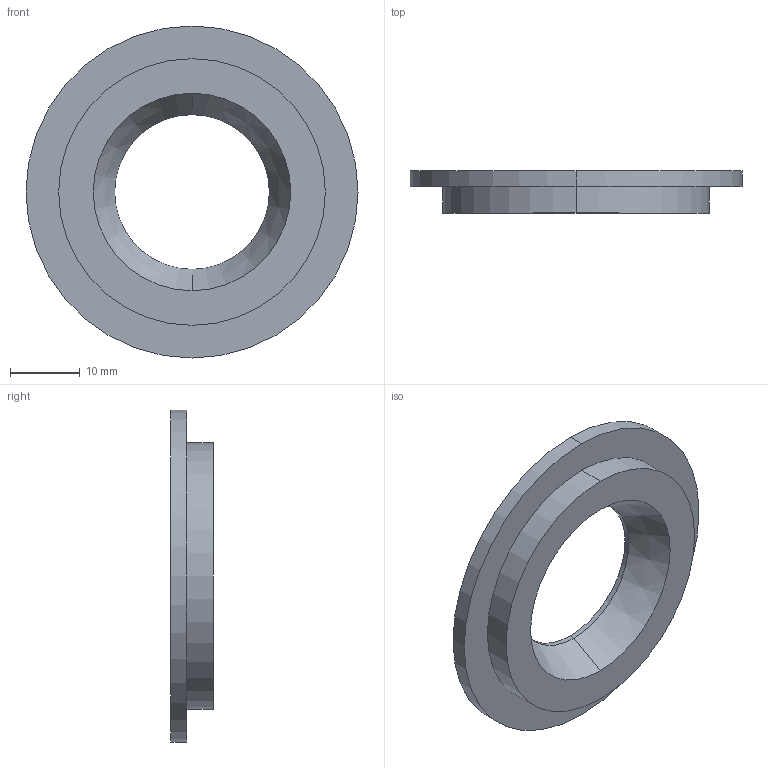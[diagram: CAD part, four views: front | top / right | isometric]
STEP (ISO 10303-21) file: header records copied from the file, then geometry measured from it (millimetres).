
FILE_DESCRIPTION (( 'STEP AP203' ), '1' );
FILE_NAME ('20-22 Washer.STEP', '2019-04-03T01:46:42', ( '' ), ( '' ), 'SwSTEP 2.0', 'SolidWorks 2017', '' );
FILE_SCHEMA (( 'CONFIG_CONTROL_DESIGN' ));
Length unit declared in the file: inch
Products named in the file (1): 20-22 Washer
Bounding box: 47.75 x 6.1 x 47.75 mm (x, y, z)
Volume: 5499.8 mm3; surface area: 3904.7 mm2
Topology: 1 solids, 1 shells, 11 faces, 22 edges, 14 vertices
Faces by surface type: cylinder 6, plane 3, cone 2
Entity records: 377 total; most frequent: DIRECTION 60, CARTESIAN_POINT 48, ORIENTED_EDGE 44, AXIS2_PLACEMENT_3D 26, EDGE_CURVE 22, EDGE_LOOP 14, CIRCLE 14, VERTEX_POINT 14
